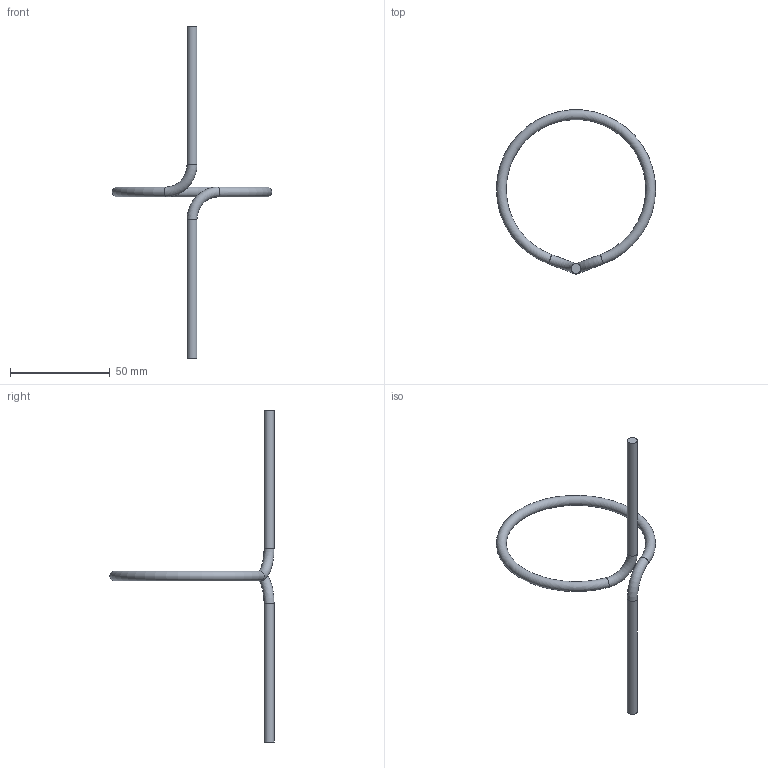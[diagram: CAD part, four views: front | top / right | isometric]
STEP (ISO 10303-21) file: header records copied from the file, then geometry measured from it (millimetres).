
FILE_DESCRIPTION((''),'2;1');
FILE_NAME('C:\Users\Sascha\Desktop\Rundung.stp','2010-04-16T11:54:49',('Sascha'),(''),'Autodesk Inventor 2010','Autodesk Inventor 2010','');
FILE_SCHEMA(('AUTOMOTIVE_DESIGN { 1 0 10303 214 1 1 1 1 }'));
Length unit declared in the file: millimetre
Products named in the file (1): Rundung
Bounding box: 79.97 x 82.4 x 166.73 mm (x, y, z)
Volume: 7688.7 mm3; surface area: 6190.2 mm2
Topology: 1 solids, 1 shells, 7 faces, 23 edges, 29 vertices
Faces by surface type: torus 3, cylinder 2, plane 2
Full cylindrical faces by diameter (mm): 5 x2
Entity records: 302 total; most frequent: CARTESIAN_POINT 44, DIRECTION 41, AXIS2_PLACEMENT_3D 16, DIMENSIONAL_EXPONENTS 13, PLANE_ANGLE_MEASURE_WITH_UNIT 13, UNCERTAINTY_MEASURE_WITH_UNIT 13, ORIENTED_EDGE 12, EDGE_LOOP 12
